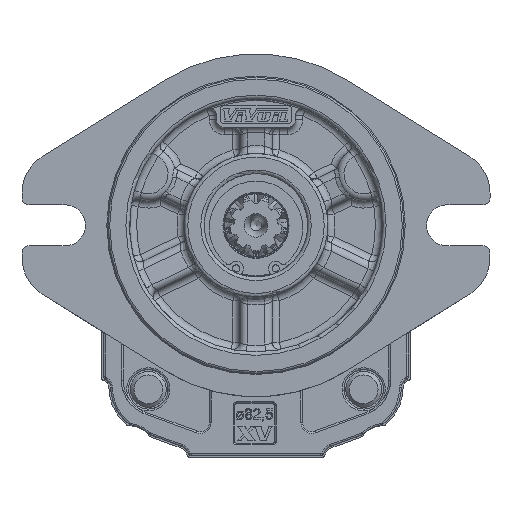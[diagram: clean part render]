
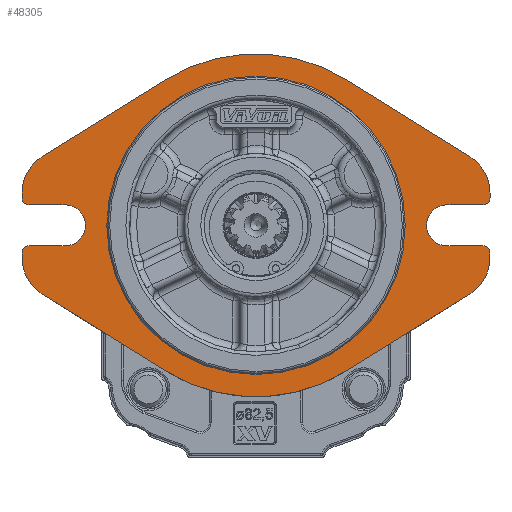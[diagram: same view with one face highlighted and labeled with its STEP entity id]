
A CAD part, front view. The second image highlights one B-rep face of the part: STEP entity #48305.
In plain terms, the highlighted planar face has unit normal (0, -1, 0).
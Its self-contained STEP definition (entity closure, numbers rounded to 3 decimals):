
#2813=LINE('',#67781,#4904);
#2817=LINE('',#67793,#4908);
#2818=LINE('',#67795,#4909);
#2825=LINE('',#67814,#4916);
#2826=LINE('',#67816,#4917);
#2833=LINE('',#67845,#4924);
#2834=LINE('',#67850,#4925);
#2835=LINE('',#67854,#4926);
#2836=LINE('',#67857,#4927);
#2837=LINE('',#67861,#4928);
#2838=LINE('',#67865,#4929);
#2839=LINE('',#67869,#4930);
#4904=VECTOR('',#55730,1000.);
#4908=VECTOR('',#55742,1000.);
#4909=VECTOR('',#55745,1000.);
#4916=VECTOR('',#55760,1000.);
#4917=VECTOR('',#55763,1000.);
#4924=VECTOR('',#55792,1000.);
#4925=VECTOR('',#55795,1000.);
#4926=VECTOR('',#55798,1000.);
#4927=VECTOR('',#55803,1000.);
#4928=VECTOR('',#55806,1000.);
#4929=VECTOR('',#55809,1000.);
#4930=VECTOR('',#55812,1000.);
#6543=PLANE('',#50873);
#10195=ORIENTED_EDGE('',*,*,#19526,.T.);
#10196=ORIENTED_EDGE('',*,*,#19527,.F.);
#10197=ORIENTED_EDGE('',*,*,#19528,.T.);
#10198=ORIENTED_EDGE('',*,*,#19529,.F.);
#10199=ORIENTED_EDGE('',*,*,#19530,.F.);
#10200=ORIENTED_EDGE('',*,*,#19531,.F.);
#10201=ORIENTED_EDGE('',*,*,#19447,.F.);
#10202=ORIENTED_EDGE('',*,*,#19496,.F.);
#10203=ORIENTED_EDGE('',*,*,#19499,.F.);
#10204=ORIENTED_EDGE('',*,*,#19502,.F.);
#10205=ORIENTED_EDGE('',*,*,#19532,.T.);
#10206=ORIENTED_EDGE('',*,*,#19503,.F.);
#10207=ORIENTED_EDGE('',*,*,#19509,.F.);
#10208=ORIENTED_EDGE('',*,*,#19512,.F.);
#10209=ORIENTED_EDGE('',*,*,#19533,.T.);
#10210=ORIENTED_EDGE('',*,*,#19513,.F.);
#10211=ORIENTED_EDGE('',*,*,#19525,.F.);
#10212=ORIENTED_EDGE('',*,*,#19534,.F.);
#10213=ORIENTED_EDGE('',*,*,#19535,.F.);
#10214=ORIENTED_EDGE('',*,*,#19536,.F.);
#10215=ORIENTED_EDGE('',*,*,#19537,.F.);
#10216=ORIENTED_EDGE('',*,*,#19538,.F.);
#10217=ORIENTED_EDGE('',*,*,#19539,.T.);
#10218=ORIENTED_EDGE('',*,*,#19540,.F.);
#10219=ORIENTED_EDGE('',*,*,#19541,.F.);
#19447=EDGE_CURVE('',#24259,#24260,#27046,.T.);
#19496=EDGE_CURVE('',#24302,#24259,#2813,.T.);
#19499=EDGE_CURVE('',#24304,#24302,#27074,.T.);
#19502=EDGE_CURVE('',#24306,#24304,#2817,.T.);
#19503=EDGE_CURVE('',#24307,#24308,#2818,.T.);
#19509=EDGE_CURVE('',#24312,#24307,#27076,.T.);
#19512=EDGE_CURVE('',#24314,#24312,#2825,.T.);
#19513=EDGE_CURVE('',#24315,#24316,#2826,.T.);
#19525=EDGE_CURVE('',#24324,#24315,#27082,.T.);
#19526=EDGE_CURVE('',#24325,#24325,#27083,.T.);
#19527=EDGE_CURVE('',#24326,#24327,#2833,.T.);
#19528=EDGE_CURVE('',#24326,#24328,#27084,.F.);
#19529=EDGE_CURVE('',#24329,#24328,#2834,.T.);
#19530=EDGE_CURVE('',#24330,#24329,#27085,.T.);
#19531=EDGE_CURVE('',#24260,#24330,#2835,.T.);
#19532=EDGE_CURVE('',#24306,#24308,#27086,.F.);
#19533=EDGE_CURVE('',#24314,#24316,#27087,.F.);
#19534=EDGE_CURVE('',#24331,#24324,#2836,.T.);
#19535=EDGE_CURVE('',#24332,#24331,#27088,.T.);
#19536=EDGE_CURVE('',#24333,#24332,#2837,.T.);
#19537=EDGE_CURVE('',#24334,#24333,#27089,.T.);
#19538=EDGE_CURVE('',#24335,#24334,#2838,.T.);
#19539=EDGE_CURVE('',#24335,#24336,#27090,.F.);
#19540=EDGE_CURVE('',#24337,#24336,#2839,.T.);
#19541=EDGE_CURVE('',#24327,#24337,#27091,.T.);
#24259=VERTEX_POINT('',#67681);
#24260=VERTEX_POINT('',#67683);
#24302=VERTEX_POINT('',#67780);
#24304=VERTEX_POINT('',#67786);
#24306=VERTEX_POINT('',#67792);
#24307=VERTEX_POINT('',#67796);
#24308=VERTEX_POINT('',#67797);
#24312=VERTEX_POINT('',#67807);
#24314=VERTEX_POINT('',#67813);
#24315=VERTEX_POINT('',#67817);
#24316=VERTEX_POINT('',#67818);
#24324=VERTEX_POINT('',#67840);
#24325=VERTEX_POINT('',#67844);
#24326=VERTEX_POINT('',#67846);
#24327=VERTEX_POINT('',#67847);
#24328=VERTEX_POINT('',#67849);
#24329=VERTEX_POINT('',#67851);
#24330=VERTEX_POINT('',#67853);
#24331=VERTEX_POINT('',#67858);
#24332=VERTEX_POINT('',#67860);
#24333=VERTEX_POINT('',#67862);
#24334=VERTEX_POINT('',#67864);
#24335=VERTEX_POINT('',#67866);
#24336=VERTEX_POINT('',#67868);
#24337=VERTEX_POINT('',#67870);
#27046=CIRCLE('',#50822,47.75);
#27074=CIRCLE('',#50856,12.);
#27076=CIRCLE('',#50861,5.7);
#27082=CIRCLE('',#50872,12.);
#27083=CIRCLE('',#50874,40.982);
#27084=CIRCLE('',#50875,2.);
#27085=CIRCLE('',#50876,12.);
#27086=CIRCLE('',#50877,2.);
#27087=CIRCLE('',#50878,2.);
#27088=CIRCLE('',#50879,47.75);
#27089=CIRCLE('',#50880,12.);
#27090=CIRCLE('',#50881,2.);
#27091=CIRCLE('',#50882,5.7);
#28884=EDGE_LOOP('',(#10195));
#28885=EDGE_LOOP('',(#10196,#10197,#10198,#10199,#10200,#10201,#10202,#10203,
#10204,#10205,#10206,#10207,#10208,#10209,#10210,#10211,#10212,#10213,#10214,
#10215,#10216,#10217,#10218,#10219));
#31272=FACE_BOUND('',#28884,.T.);
#31273=FACE_BOUND('',#28885,.T.);
#48305=ADVANCED_FACE('',(#31272,#31273),#6543,.F.);
#50822=AXIS2_PLACEMENT_3D('',#67682,#55646,#55647);
#50856=AXIS2_PLACEMENT_3D('',#67787,#55736,#55737);
#50861=AXIS2_PLACEMENT_3D('',#67808,#55754,#55755);
#50872=AXIS2_PLACEMENT_3D('',#67841,#55786,#55787);
#50873=AXIS2_PLACEMENT_3D('',#67842,#55788,#55789);
#50874=AXIS2_PLACEMENT_3D('',#67843,#55790,#55791);
#50875=AXIS2_PLACEMENT_3D('',#67848,#55793,#55794);
#50876=AXIS2_PLACEMENT_3D('',#67852,#55796,#55797);
#50877=AXIS2_PLACEMENT_3D('',#67855,#55799,#55800);
#50878=AXIS2_PLACEMENT_3D('',#67856,#55801,#55802);
#50879=AXIS2_PLACEMENT_3D('',#67859,#55804,#55805);
#50880=AXIS2_PLACEMENT_3D('',#67863,#55807,#55808);
#50881=AXIS2_PLACEMENT_3D('',#67867,#55810,#55811);
#50882=AXIS2_PLACEMENT_3D('',#67871,#55813,#55814);
#55646=DIRECTION('',(0.,1.,0.));
#55647=DIRECTION('',(-1.,0.,0.));
#55730=DIRECTION('',(-0.849,0.,-0.528));
#55736=DIRECTION('',(0.,1.,0.));
#55737=DIRECTION('',(-1.,0.,0.));
#55742=DIRECTION('',(0.,0.,-1.));
#55745=DIRECTION('',(1.,0.,0.));
#55754=DIRECTION('',(0.,-1.,0.));
#55755=DIRECTION('',(1.,0.,0.));
#55760=DIRECTION('',(-1.,0.,0.));
#55763=DIRECTION('',(0.,0.,-1.));
#55786=DIRECTION('',(0.,1.,0.));
#55787=DIRECTION('',(-1.,0.,0.));
#55788=DIRECTION('',(0.,1.,0.));
#55789=DIRECTION('',(0.,0.,-1.));
#55790=DIRECTION('',(0.,1.,0.));
#55791=DIRECTION('',(-1.,0.,0.));
#55792=DIRECTION('',(1.,0.,0.));
#55793=DIRECTION('',(0.,1.,0.));
#55794=DIRECTION('',(0.,0.,-1.));
#55795=DIRECTION('',(0.,0.,1.));
#55796=DIRECTION('',(0.,1.,0.));
#55797=DIRECTION('',(1.,0.,0.));
#55798=DIRECTION('',(-0.849,0.,0.528));
#55799=DIRECTION('',(0.,1.,0.));
#55800=DIRECTION('',(0.,0.,-1.));
#55801=DIRECTION('',(0.,1.,0.));
#55802=DIRECTION('',(0.,0.,-1.));
#55803=DIRECTION('',(0.849,0.,-0.528));
#55804=DIRECTION('',(0.,1.,0.));
#55805=DIRECTION('',(-1.,0.,0.));
#55806=DIRECTION('',(0.849,0.,0.528));
#55807=DIRECTION('',(0.,1.,0.));
#55808=DIRECTION('',(1.,0.,0.));
#55809=DIRECTION('',(0.,0.,1.));
#55810=DIRECTION('',(0.,1.,0.));
#55811=DIRECTION('',(0.,0.,-1.));
#55812=DIRECTION('',(-1.,0.,0.));
#55813=DIRECTION('',(0.,-1.,0.));
#55814=DIRECTION('',(-1.,0.,0.));
#67681=CARTESIAN_POINT('',(25.235,-19.,-24.837));
#67682=CARTESIAN_POINT('',(0.,-19.,15.7));
#67683=CARTESIAN_POINT('',(-25.235,-19.,-24.837));
#67780=CARTESIAN_POINT('',(59.532,-19.,-3.487));
#67781=CARTESIAN_POINT('',(59.532,-19.,-3.487));
#67786=CARTESIAN_POINT('',(65.19,-19.,6.7));
#67787=CARTESIAN_POINT('',(53.19,-19.,6.7));
#67792=CARTESIAN_POINT('',(65.19,-19.,8.));
#67793=CARTESIAN_POINT('',(65.19,-19.,6.7));
#67795=CARTESIAN_POINT('',(53.19,-19.,10.));
#67796=CARTESIAN_POINT('',(53.19,-19.,10.));
#67797=CARTESIAN_POINT('',(63.19,-19.,10.));
#67807=CARTESIAN_POINT('',(53.19,-19.,21.4));
#67808=CARTESIAN_POINT('',(53.19,-19.,15.7));
#67813=CARTESIAN_POINT('',(63.19,-19.,21.4));
#67814=CARTESIAN_POINT('',(53.19,-19.,21.4));
#67816=CARTESIAN_POINT('',(65.19,-19.,24.7));
#67817=CARTESIAN_POINT('',(65.19,-19.,24.7));
#67818=CARTESIAN_POINT('',(65.19,-19.,23.4));
#67840=CARTESIAN_POINT('',(59.532,-19.,34.887));
#67841=CARTESIAN_POINT('',(53.19,-19.,24.7));
#67842=CARTESIAN_POINT('',(0.,-19.,15.7));
#67843=CARTESIAN_POINT('',(0.,-19.,15.7));
#67844=CARTESIAN_POINT('',(-40.982,-19.,15.7));
#67845=CARTESIAN_POINT('',(-53.19,-19.,10.));
#67846=CARTESIAN_POINT('',(-63.19,-19.,10.));
#67847=CARTESIAN_POINT('',(-53.19,-19.,10.));
#67848=CARTESIAN_POINT('',(-63.19,-19.,8.));
#67849=CARTESIAN_POINT('',(-65.19,-19.,8.));
#67850=CARTESIAN_POINT('',(-65.19,-19.,6.7));
#67851=CARTESIAN_POINT('',(-65.19,-19.,6.7));
#67852=CARTESIAN_POINT('',(-53.19,-19.,6.7));
#67853=CARTESIAN_POINT('',(-59.532,-19.,-3.487));
#67854=CARTESIAN_POINT('',(-59.532,-19.,-3.487));
#67855=CARTESIAN_POINT('',(63.19,-19.,8.));
#67856=CARTESIAN_POINT('',(63.19,-19.,23.4));
#67857=CARTESIAN_POINT('',(25.235,-19.,56.237));
#67858=CARTESIAN_POINT('',(25.235,-19.,56.237));
#67859=CARTESIAN_POINT('',(0.,-19.,15.7));
#67860=CARTESIAN_POINT('',(-25.235,-19.,56.237));
#67861=CARTESIAN_POINT('',(-25.235,-19.,56.237));
#67862=CARTESIAN_POINT('',(-59.532,-19.,34.887));
#67863=CARTESIAN_POINT('',(-53.19,-19.,24.7));
#67864=CARTESIAN_POINT('',(-65.19,-19.,24.7));
#67865=CARTESIAN_POINT('',(-65.19,-19.,24.7));
#67866=CARTESIAN_POINT('',(-65.19,-19.,23.4));
#67867=CARTESIAN_POINT('',(-63.19,-19.,23.4));
#67868=CARTESIAN_POINT('',(-63.19,-19.,21.4));
#67869=CARTESIAN_POINT('',(-53.19,-19.,21.4));
#67870=CARTESIAN_POINT('',(-53.19,-19.,21.4));
#67871=CARTESIAN_POINT('',(-53.19,-19.,15.7));
